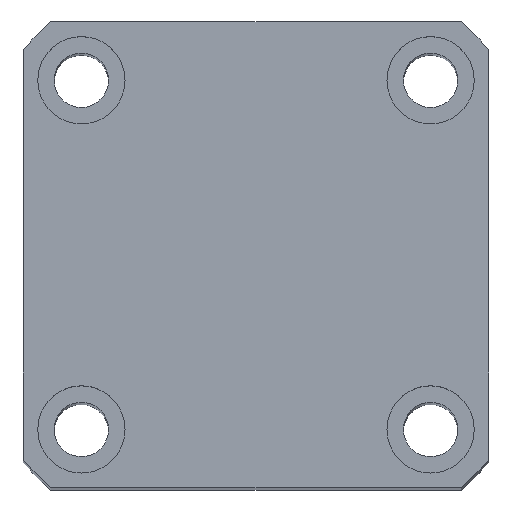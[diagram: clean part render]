
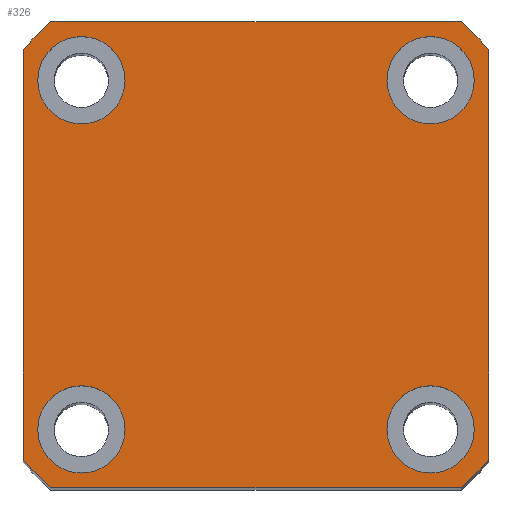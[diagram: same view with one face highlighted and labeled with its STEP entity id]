
A CAD part, top view. The second image highlights one B-rep face of the part: STEP entity #326.
In plain terms, the highlighted planar face has unit normal (0, 0, 1) as drawn and (1, 0, 0) by its records, which use the part's own axes.
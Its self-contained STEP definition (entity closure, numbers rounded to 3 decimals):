
#13 = EDGE_CURVE ( 'NONE', #3921, #2558, #3516, .T. ) ;
#110 = CARTESIAN_POINT ( 'NONE',  ( 140., 18., 13.5 ) ) ;
#129 = DIRECTION ( 'NONE',  ( 0., 0., -1. ) ) ;
#143 = DIRECTION ( 'NONE',  ( 1., 0., 0. ) ) ;
#163 = CARTESIAN_POINT ( 'NONE',  ( 140., 18., 18. ) ) ;
#239 = VERTEX_POINT ( 'NONE', #7980 ) ;
#250 = DIRECTION ( 'NONE',  ( 0., 0., -1. ) ) ;
#258 = LINE ( 'NONE', #5852, #5387 ) ;
#267 = CIRCLE ( 'NONE', #3986, 32. ) ;
#282 = CIRCLE ( 'NONE', #2115, 32. ) ;
#326 = ADVANCED_FACE ( 'NONE', ( #3338, #6427, #3151, #1517, #7826 ), #646, .T. ) ;
#379 = CARTESIAN_POINT ( 'NONE',  ( 140., 21.166, 24. ) ) ;
#383 = EDGE_CURVE ( 'NONE', #5281, #4284, #5847, .T. ) ;
#482 = DIRECTION ( 'NONE',  ( 0., 0., -1. ) ) ;
#485 = DIRECTION ( 'NONE',  ( 0., 0., -1. ) ) ;
#501 = DIRECTION ( 'NONE',  ( 1., 0., 0. ) ) ;
#518 = CARTESIAN_POINT ( 'NONE',  ( 140., 0., 0. ) ) ;
#523 = DIRECTION ( 'NONE',  ( 1., 0., 0. ) ) ;
#531 = CARTESIAN_POINT ( 'NONE',  ( 140., 18., 18. ) ) ;
#646 = PLANE ( 'NONE',  #6167 ) ;
#701 = ORIENTED_EDGE ( 'NONE', *, *, #383, .F. ) ;
#862 = EDGE_CURVE ( 'NONE', #3380, #3415, #7154, .T. ) ;
#925 = EDGE_LOOP ( 'NONE', ( #6243, #2966 ) ) ;
#940 = DIRECTION ( 'NONE',  ( 0., -1., 0. ) ) ;
#1102 = DIRECTION ( 'NONE',  ( 0., 1., 0. ) ) ;
#1128 = ORIENTED_EDGE ( 'NONE', *, *, #13, .T. ) ;
#1129 = DIRECTION ( 'NONE',  ( 1., 0., 0. ) ) ;
#1144 = CARTESIAN_POINT ( 'NONE',  ( 140., -18., -18. ) ) ;
#1170 = DIRECTION ( 'NONE',  ( 0., 0., -1. ) ) ;
#1422 = CARTESIAN_POINT ( 'NONE',  ( 140., -18., -22.5 ) ) ;
#1427 = VERTEX_POINT ( 'NONE', #7300 ) ;
#1440 = AXIS2_PLACEMENT_3D ( 'NONE', #3164, #2670, #3157 ) ;
#1514 = EDGE_CURVE ( 'NONE', #1427, #7744, #3585, .T. ) ;
#1517 = FACE_BOUND ( 'NONE', #925, .T. ) ;
#1610 = VERTEX_POINT ( 'NONE', #6329 ) ;
#1746 = EDGE_CURVE ( 'NONE', #5969, #6571, #7316, .T. ) ;
#1781 = DIRECTION ( 'NONE',  ( 0., 0., -1. ) ) ;
#1903 = VECTOR ( 'NONE', #940, 1000. ) ;
#2061 = EDGE_CURVE ( 'NONE', #2558, #3525, #3695, .T. ) ;
#2115 = AXIS2_PLACEMENT_3D ( 'NONE', #7783, #7997, #7281 ) ;
#2352 = AXIS2_PLACEMENT_3D ( 'NONE', #518, #501, #482 ) ;
#2354 = VERTEX_POINT ( 'NONE', #4001 ) ;
#2384 = EDGE_CURVE ( 'NONE', #3415, #1427, #282, .T. ) ;
#2419 = DIRECTION ( 'NONE',  ( 0., 0., -1. ) ) ;
#2434 = ORIENTED_EDGE ( 'NONE', *, *, #1746, .F. ) ;
#2446 = DIRECTION ( 'NONE',  ( 1., 0., 0. ) ) ;
#2558 = VERTEX_POINT ( 'NONE', #3038 ) ;
#2670 = DIRECTION ( 'NONE',  ( 1., 0., 0. ) ) ;
#2681 = AXIS2_PLACEMENT_3D ( 'NONE', #1144, #5461, #1781 ) ;
#2780 = ORIENTED_EDGE ( 'NONE', *, *, #1514, .T. ) ;
#2796 = EDGE_CURVE ( 'NONE', #239, #3380, #3293, .T. ) ;
#2833 = EDGE_LOOP ( 'NONE', ( #7429, #4619 ) ) ;
#2889 = EDGE_CURVE ( 'NONE', #2935, #5558, #2893, .T. ) ;
#2893 = CIRCLE ( 'NONE', #5264, 4.5 ) ;
#2898 = CARTESIAN_POINT ( 'NONE',  ( 140., 0., 0. ) ) ;
#2903 = DIRECTION ( 'NONE',  ( 0., 0., -1. ) ) ;
#2935 = VERTEX_POINT ( 'NONE', #110 ) ;
#2966 = ORIENTED_EDGE ( 'NONE', *, *, #5105, .F. ) ;
#2997 = CARTESIAN_POINT ( 'NONE',  ( 140., 24., -24. ) ) ;
#3038 = CARTESIAN_POINT ( 'NONE',  ( 140., -21.166, 24. ) ) ;
#3151 = FACE_BOUND ( 'NONE', #2833, .T. ) ;
#3157 = DIRECTION ( 'NONE',  ( 0., 0., -1. ) ) ;
#3164 = CARTESIAN_POINT ( 'NONE',  ( 140., -18., 18. ) ) ;
#3279 = CIRCLE ( 'NONE', #4337, 4.5 ) ;
#3293 = CIRCLE ( 'NONE', #2352, 32. ) ;
#3308 = ORIENTED_EDGE ( 'NONE', *, *, #2796, .T. ) ;
#3338 = FACE_BOUND ( 'NONE', #6876, .T. ) ;
#3349 = CARTESIAN_POINT ( 'NONE',  ( 140., -18., -18. ) ) ;
#3368 = EDGE_CURVE ( 'NONE', #6571, #5969, #5887, .T. ) ;
#3380 = VERTEX_POINT ( 'NONE', #5697 ) ;
#3415 = VERTEX_POINT ( 'NONE', #5578 ) ;
#3417 = CARTESIAN_POINT ( 'NONE',  ( 140., 24., 24. ) ) ;
#3516 = LINE ( 'NONE', #3417, #1903 ) ;
#3525 = VERTEX_POINT ( 'NONE', #4968 ) ;
#3585 = LINE ( 'NONE', #6668, #6485 ) ;
#3615 = CARTESIAN_POINT ( 'NONE',  ( 140., 18., -18. ) ) ;
#3666 = CARTESIAN_POINT ( 'NONE',  ( 140., 0., 0. ) ) ;
#3695 = CIRCLE ( 'NONE', #4736, 32. ) ;
#3762 = DIRECTION ( 'NONE',  ( 1., 0., 0. ) ) ;
#3785 = DIRECTION ( 'NONE',  ( 0., 0., -1. ) ) ;
#3921 = VERTEX_POINT ( 'NONE', #379 ) ;
#3983 = DIRECTION ( 'NONE',  ( 1., 0., 0. ) ) ;
#3986 = AXIS2_PLACEMENT_3D ( 'NONE', #2898, #2446, #2419 ) ;
#4001 = CARTESIAN_POINT ( 'NONE',  ( 140., 18., -22.5 ) ) ;
#4011 = ORIENTED_EDGE ( 'NONE', *, *, #5080, .F. ) ;
#4057 = EDGE_CURVE ( 'NONE', #7744, #3921, #267, .T. ) ;
#4088 = ORIENTED_EDGE ( 'NONE', *, *, #5484, .T. ) ;
#4125 = CARTESIAN_POINT ( 'NONE',  ( 140., -18., -13.5 ) ) ;
#4284 = VERTEX_POINT ( 'NONE', #4125 ) ;
#4337 = AXIS2_PLACEMENT_3D ( 'NONE', #531, #4865, #1170 ) ;
#4436 = ORIENTED_EDGE ( 'NONE', *, *, #2384, .T. ) ;
#4516 = CIRCLE ( 'NONE', #6451, 4.5 ) ;
#4561 = EDGE_CURVE ( 'NONE', #1610, #2354, #7018, .T. ) ;
#4619 = ORIENTED_EDGE ( 'NONE', *, *, #4561, .F. ) ;
#4644 = CARTESIAN_POINT ( 'NONE',  ( 140., 24., 21.166 ) ) ;
#4736 = AXIS2_PLACEMENT_3D ( 'NONE', #3666, #3762, #3785 ) ;
#4865 = DIRECTION ( 'NONE',  ( 1., 0., 0. ) ) ;
#4968 = CARTESIAN_POINT ( 'NONE',  ( 140., -24., 21.166 ) ) ;
#5080 = EDGE_CURVE ( 'NONE', #4284, #5281, #5117, .T. ) ;
#5105 = EDGE_CURVE ( 'NONE', #5558, #2935, #3279, .T. ) ;
#5117 = CIRCLE ( 'NONE', #2681, 4.5 ) ;
#5264 = AXIS2_PLACEMENT_3D ( 'NONE', #163, #143, #129 ) ;
#5281 = VERTEX_POINT ( 'NONE', #1422 ) ;
#5335 = ORIENTED_EDGE ( 'NONE', *, *, #2061, .T. ) ;
#5387 = VECTOR ( 'NONE', #6471, 1000. ) ;
#5461 = DIRECTION ( 'NONE',  ( 1., 0., 0. ) ) ;
#5484 = EDGE_CURVE ( 'NONE', #3525, #239, #258, .T. ) ;
#5521 = ORIENTED_EDGE ( 'NONE', *, *, #862, .T. ) ;
#5551 = VECTOR ( 'NONE', #1102, 1000. ) ;
#5558 = VERTEX_POINT ( 'NONE', #7094 ) ;
#5566 = CARTESIAN_POINT ( 'NONE',  ( 140., -18., 22.5 ) ) ;
#5578 = CARTESIAN_POINT ( 'NONE',  ( 140., 21.166, -24. ) ) ;
#5586 = EDGE_LOOP ( 'NONE', ( #6962, #2434 ) ) ;
#5697 = CARTESIAN_POINT ( 'NONE',  ( 140., -21.166, -24. ) ) ;
#5713 = DIRECTION ( 'NONE',  ( 0., 0., -1. ) ) ;
#5728 = DIRECTION ( 'NONE',  ( 1., 0., 0. ) ) ;
#5732 = CARTESIAN_POINT ( 'NONE',  ( 140., -18., 18. ) ) ;
#5758 = AXIS2_PLACEMENT_3D ( 'NONE', #3349, #5767, #2903 ) ;
#5767 = DIRECTION ( 'NONE',  ( 1., 0., 0. ) ) ;
#5847 = CIRCLE ( 'NONE', #5758, 4.5 ) ;
#5852 = CARTESIAN_POINT ( 'NONE',  ( 140., -24., 24. ) ) ;
#5853 = CARTESIAN_POINT ( 'NONE',  ( 140., 0., 0. ) ) ;
#5887 = CIRCLE ( 'NONE', #6346, 4.5 ) ;
#5969 = VERTEX_POINT ( 'NONE', #5566 ) ;
#6167 = AXIS2_PLACEMENT_3D ( 'NONE', #5853, #523, #485 ) ;
#6243 = ORIENTED_EDGE ( 'NONE', *, *, #2889, .F. ) ;
#6295 = AXIS2_PLACEMENT_3D ( 'NONE', #3615, #1129, #7276 ) ;
#6329 = CARTESIAN_POINT ( 'NONE',  ( 140., 18., -13.5 ) ) ;
#6346 = AXIS2_PLACEMENT_3D ( 'NONE', #5732, #5728, #5713 ) ;
#6427 = FACE_BOUND ( 'NONE', #5586, .T. ) ;
#6451 = AXIS2_PLACEMENT_3D ( 'NONE', #7637, #3983, #250 ) ;
#6471 = DIRECTION ( 'NONE',  ( 0., 0., -1. ) ) ;
#6485 = VECTOR ( 'NONE', #6639, 1000. ) ;
#6571 = VERTEX_POINT ( 'NONE', #6906 ) ;
#6639 = DIRECTION ( 'NONE',  ( 0., 0., 1. ) ) ;
#6668 = CARTESIAN_POINT ( 'NONE',  ( 140., 24., 24. ) ) ;
#6876 = EDGE_LOOP ( 'NONE', ( #701, #4011 ) ) ;
#6906 = CARTESIAN_POINT ( 'NONE',  ( 140., -18., 13.5 ) ) ;
#6962 = ORIENTED_EDGE ( 'NONE', *, *, #3368, .F. ) ;
#7018 = CIRCLE ( 'NONE', #6295, 4.5 ) ;
#7094 = CARTESIAN_POINT ( 'NONE',  ( 140., 18., 22.5 ) ) ;
#7154 = LINE ( 'NONE', #2997, #5551 ) ;
#7276 = DIRECTION ( 'NONE',  ( 0., 0., -1. ) ) ;
#7281 = DIRECTION ( 'NONE',  ( 0., 0., -1. ) ) ;
#7300 = CARTESIAN_POINT ( 'NONE',  ( 140., 24., -21.166 ) ) ;
#7316 = CIRCLE ( 'NONE', #1440, 4.5 ) ;
#7322 = ORIENTED_EDGE ( 'NONE', *, *, #4057, .T. ) ;
#7429 = ORIENTED_EDGE ( 'NONE', *, *, #7634, .F. ) ;
#7634 = EDGE_CURVE ( 'NONE', #2354, #1610, #4516, .T. ) ;
#7637 = CARTESIAN_POINT ( 'NONE',  ( 140., 18., -18. ) ) ;
#7744 = VERTEX_POINT ( 'NONE', #4644 ) ;
#7783 = CARTESIAN_POINT ( 'NONE',  ( 140., 0., 0. ) ) ;
#7826 = FACE_OUTER_BOUND ( 'NONE', #7920, .T. ) ;
#7920 = EDGE_LOOP ( 'NONE', ( #5521, #4436, #2780, #7322, #1128, #5335, #4088, #3308 ) ) ;
#7980 = CARTESIAN_POINT ( 'NONE',  ( 140., -24., -21.166 ) ) ;
#7997 = DIRECTION ( 'NONE',  ( 1., 0., 0. ) ) ;
